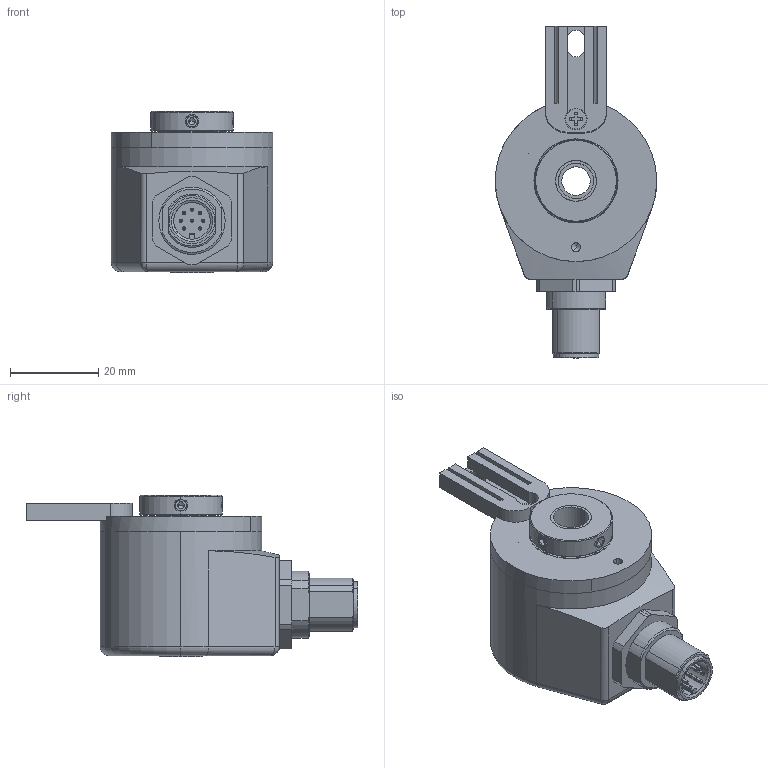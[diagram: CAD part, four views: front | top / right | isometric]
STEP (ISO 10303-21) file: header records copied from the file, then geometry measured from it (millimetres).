
FILE_DESCRIPTION (( 'STEP AP214' ), '1' );
FILE_NAME ('Step BG-36-H-08-XX-XXXX-X-1-XX-V026.STEP', '2013-11-28T15:32:51', ( 'IST GmbH' ), ( '' ), 'SwSTEP 2.0', 'SolidWorks 2009', '' );
FILE_SCHEMA (( 'AUTOMOTIVE_DESIGN' ));
Length unit declared in the file: millimetre
Products named in the file (1): Step BG-36-H-08-XX-XXXX-X-1-XX-V026
Bounding box: 36.5 x 75 x 36.5 mm (x, y, z)
Volume: 22290.2 mm3; surface area: 22126.9 mm2
Topology: 16 solids, 16 shells, 617 faces, 1470 edges, 912 vertices
Faces by surface type: plane 229, cylinder 216, cone 101, torus 48, bspline 23
Entity records: 26273 total; most frequent: CARTESIAN_POINT 4909, DIRECTION 3152, ORIENTED_EDGE 2896, EDGE_CURVE 1448, AXIS2_PLACEMENT_3D 1245, VERTEX_POINT 912, EDGE_LOOP 698, LINE 662
